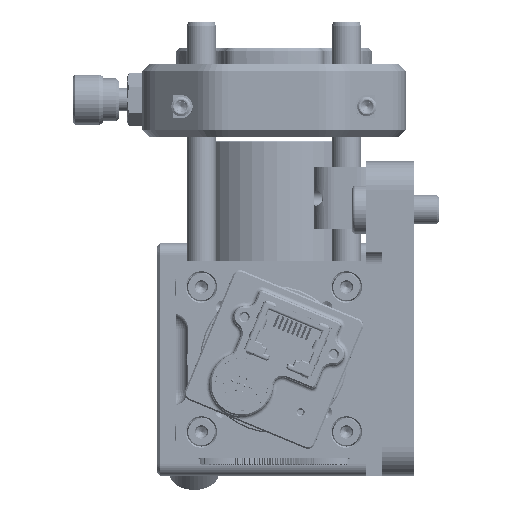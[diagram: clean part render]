
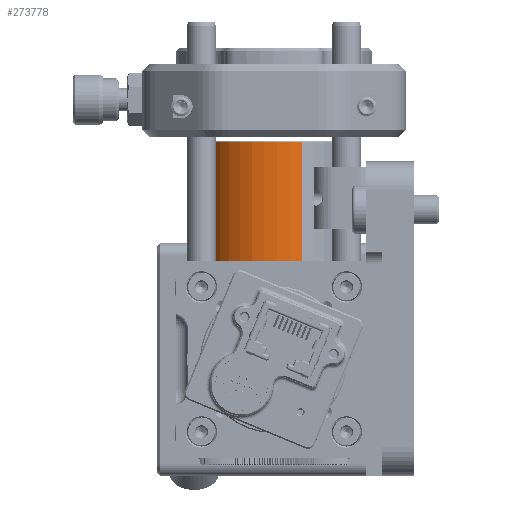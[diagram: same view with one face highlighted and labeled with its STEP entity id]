
A CAD part, left-side view. The second image highlights one B-rep face of the part: STEP entity #273778.
In plain terms, the highlighted cylindrical face has radius 15.24 mm (diameter 30.48 mm), a partial arc.
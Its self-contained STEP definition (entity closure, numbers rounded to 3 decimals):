
#27209 = CARTESIAN_POINT ( 'NONE',  ( -0.254, 0., 0. ) ) ;
#27811 = CARTESIAN_POINT ( 'NONE',  ( -25.908, 0., 0. ) ) ;
#28384 = DIRECTION ( 'NONE',  ( 0., 0., -1. ) ) ;
#35228 = DIRECTION ( 'NONE',  ( 1., 0., 0. ) ) ;
#59718 = AXIS2_PLACEMENT_3D ( 'NONE', #388476, #35228, #28384 ) ;
#74330 = ORIENTED_EDGE ( 'NONE', *, *, #265214, .T. ) ;
#87974 = EDGE_CURVE ( 'NONE', #116590, #238390, #211901, .T. ) ;
#96955 = DIRECTION ( 'NONE',  ( 0., 0., -1. ) ) ;
#99878 = DIRECTION ( 'NONE',  ( 0., 0., 1. ) ) ;
#101883 = CARTESIAN_POINT ( 'NONE',  ( -0.254, 0., -15.24 ) ) ;
#116590 = VERTEX_POINT ( 'NONE', #416268 ) ;
#128959 = ORIENTED_EDGE ( 'NONE', *, *, #339945, .F. ) ;
#131225 = EDGE_LOOP ( 'NONE', ( #74330, #205811, #217462, #128959 ) ) ;
#139594 = CARTESIAN_POINT ( 'NONE',  ( -25.908, 0., 15.24 ) ) ;
#162712 = DIRECTION ( 'NONE',  ( 1., 0., 0. ) ) ;
#175573 = AXIS2_PLACEMENT_3D ( 'NONE', #27811, #162712, #99878 ) ;
#205811 = ORIENTED_EDGE ( 'NONE', *, *, #416294, .T. ) ;
#206385 = VERTEX_POINT ( 'NONE', #139594 ) ;
#211901 = CIRCLE ( 'NONE', #278945, 15.24 ) ;
#212801 = LINE ( 'NONE', #347721, #399319 ) ;
#215371 = VERTEX_POINT ( 'NONE', #311628 ) ;
#217462 = ORIENTED_EDGE ( 'NONE', *, *, #87974, .T. ) ;
#238390 = VERTEX_POINT ( 'NONE', #101883 ) ;
#249044 = CYLINDRICAL_SURFACE ( 'NONE', #59718, 15.24 ) ;
#265214 = EDGE_CURVE ( 'NONE', #215371, #206385, #420357, .T. ) ;
#273778 = ADVANCED_FACE ( 'NONE', ( #353621 ), #249044, .T. ) ;
#278945 = AXIS2_PLACEMENT_3D ( 'NONE', #27209, #413001, #96955 ) ;
#280293 = DIRECTION ( 'NONE',  ( 1., 0., 0. ) ) ;
#280491 = DIRECTION ( 'NONE',  ( 1., 0., 0. ) ) ;
#311628 = CARTESIAN_POINT ( 'NONE',  ( -25.908, 0., -15.24 ) ) ;
#317619 = LINE ( 'NONE', #357097, #332140 ) ;
#332140 = VECTOR ( 'NONE', #280491, 1000. ) ;
#339945 = EDGE_CURVE ( 'NONE', #215371, #238390, #212801, .T. ) ;
#347721 = CARTESIAN_POINT ( 'NONE',  ( 0., 0., -15.24 ) ) ;
#353621 = FACE_OUTER_BOUND ( 'NONE', #131225, .T. ) ;
#357097 = CARTESIAN_POINT ( 'NONE',  ( 0., 0., 15.24 ) ) ;
#388476 = CARTESIAN_POINT ( 'NONE',  ( 0., 0., 0. ) ) ;
#399319 = VECTOR ( 'NONE', #280293, 1000. ) ;
#413001 = DIRECTION ( 'NONE',  ( -1., 0., 0. ) ) ;
#416268 = CARTESIAN_POINT ( 'NONE',  ( -0.254, 0., 15.24 ) ) ;
#416294 = EDGE_CURVE ( 'NONE', #206385, #116590, #317619, .T. ) ;
#420357 = CIRCLE ( 'NONE', #175573, 15.24 ) ;
